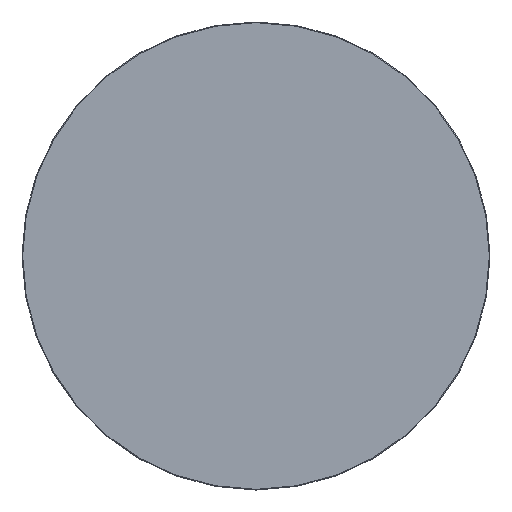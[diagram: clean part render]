
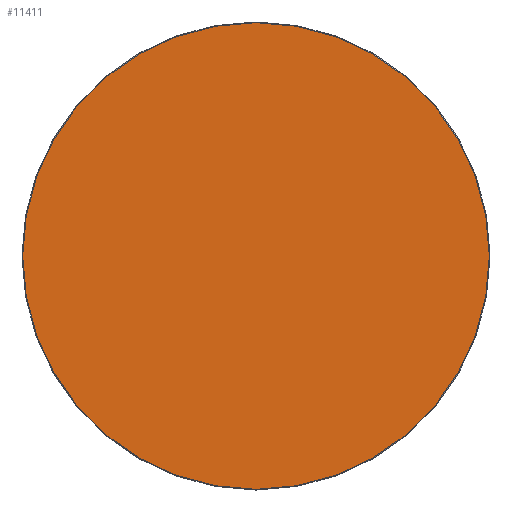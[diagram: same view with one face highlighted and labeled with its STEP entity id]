
A CAD part, top view. The second image highlights one B-rep face of the part: STEP entity #11411.
In plain terms, the highlighted planar face has unit normal (0, 0, 1).
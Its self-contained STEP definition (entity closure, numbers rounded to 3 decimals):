
#11336=CARTESIAN_POINT('',(0.,0.,20.));
#11337=DIRECTION('',(1.,0.,0.));
#11338=DIRECTION('',(0.,0.,1.));
#11339=AXIS2_PLACEMENT_3D('',#11336,#11338,#11337);
#11340=PLANE('',#11339);
#11341=CARTESIAN_POINT('',(-0.5,-498.5,20.));
#11342=VERTEX_POINT('',#11341);
#11343=CARTESIAN_POINT('',(0.5,-498.5,20.));
#11344=VERTEX_POINT('',#11343);
#11345=CARTESIAN_POINT('',(-0.5,-498.5,20.));
#11346=DIRECTION('',(1.,0.,0.));
#11347=VECTOR('',#11346,1.);
#11348=LINE('',#11345,#11347);
#11349=EDGE_CURVE('',#11342,#11344,#11348,.T.);
#11350=ORIENTED_EDGE('E105',*,*,#11349,.T.);
#11351=CARTESIAN_POINT('',(498.5,-0.5,20.));
#11352=VERTEX_POINT('',#11351);
#11353=CARTESIAN_POINT('',(0.5,-0.5,20.));
#11354=DIRECTION('',(0.,-1.,0.));
#11355=DIRECTION('',(0.,-0.,1.));
#11356=AXIS2_PLACEMENT_3D('',#11353,#11355,#11354);
#11357=CIRCLE('',#11356,498.);
#11358=EDGE_CURVE('',#11344,#11352,#11357,.T.);
#11359=ORIENTED_EDGE('E107',*,*,#11358,.T.);
#11360=CARTESIAN_POINT('',(498.5,0.5,20.));
#11361=VERTEX_POINT('',#11360);
#11362=CARTESIAN_POINT('',(498.5,-0.5,20.));
#11363=DIRECTION('',(0.,1.,0.));
#11364=VECTOR('',#11363,1.);
#11365=LINE('',#11362,#11364);
#11366=EDGE_CURVE('',#11352,#11361,#11365,.T.);
#11367=ORIENTED_EDGE('E109',*,*,#11366,.T.);
#11368=CARTESIAN_POINT('',(0.5,498.5,20.));
#11369=VERTEX_POINT('',#11368);
#11370=CARTESIAN_POINT('',(0.5,0.5,20.));
#11371=DIRECTION('',(1.,0.,0.));
#11372=DIRECTION('',(0.,0.,1.));
#11373=AXIS2_PLACEMENT_3D('',#11370,#11372,#11371);
#11374=CIRCLE('',#11373,498.);
#11375=EDGE_CURVE('',#11361,#11369,#11374,.T.);
#11376=ORIENTED_EDGE('E111',*,*,#11375,.T.);
#11377=CARTESIAN_POINT('',(-0.5,498.5,20.));
#11378=VERTEX_POINT('',#11377);
#11379=CARTESIAN_POINT('',(0.5,498.5,20.));
#11380=DIRECTION('',(-1.,0.,0.));
#11381=VECTOR('',#11380,1.);
#11382=LINE('',#11379,#11381);
#11383=EDGE_CURVE('',#11369,#11378,#11382,.T.);
#11384=ORIENTED_EDGE('E113',*,*,#11383,.T.);
#11385=CARTESIAN_POINT('',(-498.5,0.5,20.));
#11386=VERTEX_POINT('',#11385);
#11387=CARTESIAN_POINT('',(-0.5,0.5,20.));
#11388=DIRECTION('',(0.,1.,0.));
#11389=DIRECTION('',(0.,0.,1.));
#11390=AXIS2_PLACEMENT_3D('',#11387,#11389,#11388);
#11391=CIRCLE('',#11390,498.);
#11392=EDGE_CURVE('',#11378,#11386,#11391,.T.);
#11393=ORIENTED_EDGE('E115',*,*,#11392,.T.);
#11394=CARTESIAN_POINT('',(-498.5,-0.5,20.));
#11395=VERTEX_POINT('',#11394);
#11396=CARTESIAN_POINT('',(-498.5,0.5,20.));
#11397=DIRECTION('',(0.,-1.,0.));
#11398=VECTOR('',#11397,1.);
#11399=LINE('',#11396,#11398);
#11400=EDGE_CURVE('',#11386,#11395,#11399,.T.);
#11401=ORIENTED_EDGE('E117',*,*,#11400,.T.);
#11402=CARTESIAN_POINT('',(-0.5,-0.5,20.));
#11403=DIRECTION('',(-1.,0.,0.));
#11404=DIRECTION('',(-0.,0.,1.));
#11405=AXIS2_PLACEMENT_3D('',#11402,#11404,#11403);
#11406=CIRCLE('',#11405,498.);
#11407=EDGE_CURVE('',#11395,#11342,#11406,.T.);
#11408=ORIENTED_EDGE('E119',*,*,#11407,.T.);
#11409=EDGE_LOOP('',(#11350,#11359,#11367,#11376,#11384,#11393,#11401,#11408));
#11410=FACE_OUTER_BOUND('',#11409,.T.);
#11411=ADVANCED_FACE('F2',(#11410),#11340,.T.);
